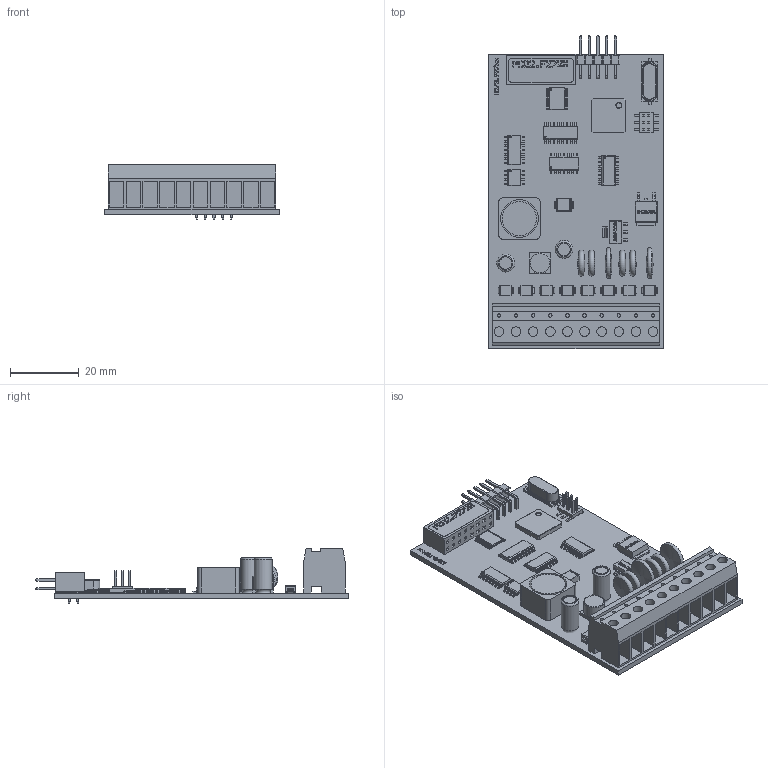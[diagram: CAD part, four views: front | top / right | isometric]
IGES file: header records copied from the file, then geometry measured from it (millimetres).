
Global section: file name: SBC_IGS_PLC_PCD2F2720_2021-08-08.igs; native system: CAD Exchanger; preprocessor: CAD Exchanger 3.9.1 (cadexchanger.com); date: 20210808.200632; units: millimetre
Bounding box: 51 x 91.5 x 16.01 mm (x, y, z)
Volume: 16046.4 mm3; surface area: 21301.1 mm2
Topology: 153 solids, 153 shells, 3419 faces, 8913 edges, 5860 vertices
Faces by surface type: plane 2219, cylinder 556, extrusion 320, bspline 274, sphere 24, torus 15, revolution 8, cone 3
Full cylindrical faces by diameter (mm): 0.4 x6, 1 x10, 1.5 x1, 2.8 x10, 3.6 x4, 5.2 x4, 6 x1, 10 x1, 11 x1
